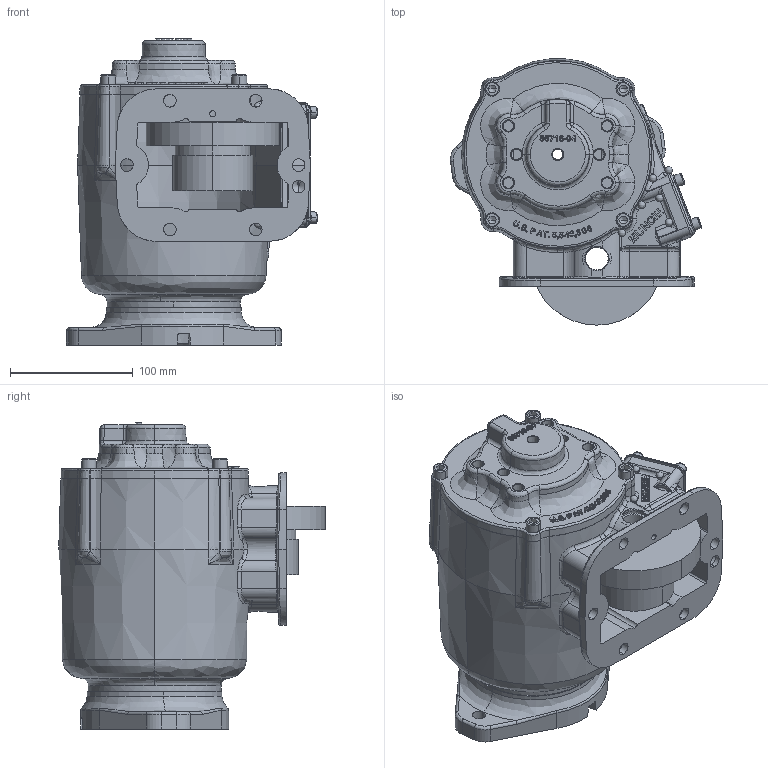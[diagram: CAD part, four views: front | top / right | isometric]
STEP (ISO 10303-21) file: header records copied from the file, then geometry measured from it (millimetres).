
FILE_DESCRIPTION (( 'STEP AP203' ), '1' );
FILE_NAME ('CS6S-XXXXX-X1SX.STEP', '2011-11-29T15:52:15', ( 'User' ), ( 'Muncie Power Products, Inc.' ), 'SwSTEP 2.0', 'SolidWorks 2011', '' );
FILE_SCHEMA (( 'CONFIG_CONTROL_DESIGN' ));
Products named in the file (3): CS6S-XXXXX-X1SX; 14t35464; CS6S-XXXXX-X16X
Assembly tree (2 placements, depth 2):
  CS6S-XXXXX-X1SX
    CS6S-XXXXX-X16X
    14t35464
Bounding box: 204.52 x 216.75 x 249.19 mm (x, y, z)
Volume: 208389.3 mm3; surface area: 403604.4 mm2
Topology: 1 solids, 13 shells, 2008 faces, 5320 edges, 3350 vertices
Faces by surface type: bspline 925, cylinder 445, plane 442, cone 196
Entity records: 154313 total; most frequent: CARTESIAN_POINT 112187, ORIENTED_EDGE 10426, DIRECTION 5713, EDGE_CURVE 5214, VERTEX_POINT 3350, B_SPLINE_CURVE_WITH_KNOTS 2370, EDGE_LOOP 2230, ADVANCED_FACE 2008
